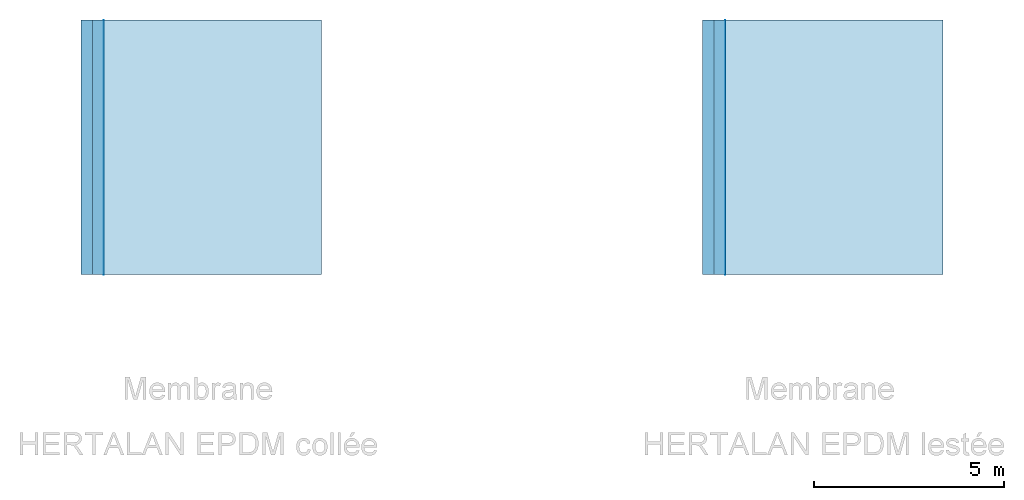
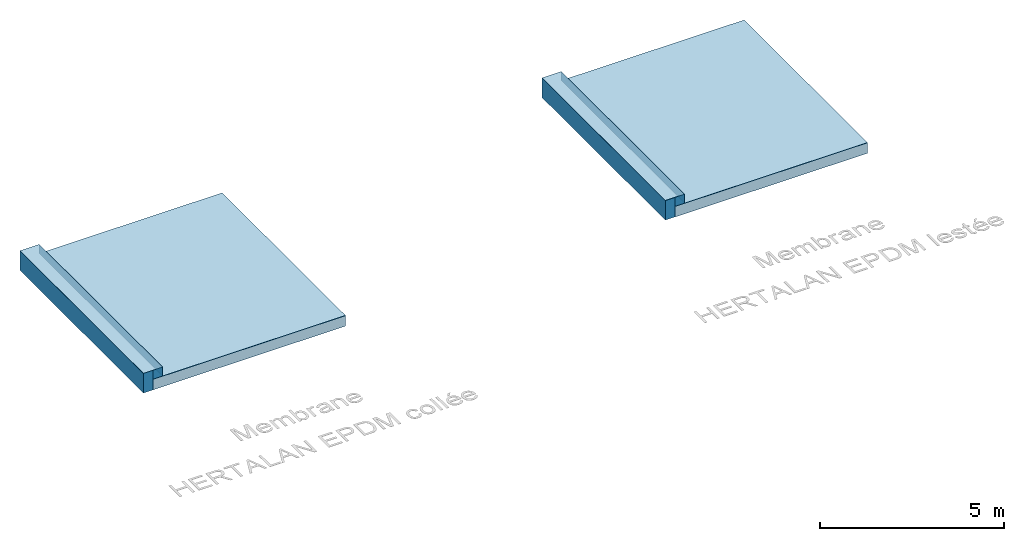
# One storey, incomplete: 6 slabs, 6 walls, 6 elements without a shape of their own.
"""IFC2X3 building model written with IfcOpenShell, lengths in millimetres."""

from ifc_helpers import new_model, entity, si_unit, converted_unit, direction, frame, frame_2d, origin, origin_2d_with_axis, place, context, subcontext, project, spatial, rectangle, extrude, clip, halfspace, material, layer, layer_set, layer_usage, type_object, element, aggregate, save


model = new_model("IFC2X3")

# Units and contexts
model_context = context("Model", 3, precision=0.01, world=origin(), true_north=direction((0.0, 1.0)))
plan_context = context("Plan", 3, precision=0.01, world=origin(), true_north=direction((0.0, 1.0)))
body_context = subcontext(model_context, "Body", "Model", "MODEL_VIEW")
ifc_project = project(units=[si_unit("LENGTHUNIT", "METRE", prefix="MILLI"), si_unit("AREAUNIT", "SQUARE_METRE"), si_unit("VOLUMEUNIT", "CUBIC_METRE"), converted_unit("PLANEANGLEUNIT", "DEGREE", entity("IfcPlaneAngleMeasure", 0.017453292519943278), si_unit("PLANEANGLEUNIT", "RADIAN"), dimensions=[0, 0, 0, 0, 0, 0, 0])], contexts=[model_context, plan_context])

# Site, building, storey
site_placement = place(None, origin())
site = spatial("IfcSite", under=ifc_project, at=site_placement, Name="Default", CompositionType="ELEMENT")
building_placement = place(site_placement, origin())
building = spatial("IfcBuilding", under=site, at=building_placement, CompositionType="ELEMENT")
storey_placement = place(building_placement, origin())
storey = spatial("IfcBuildingStorey", under=building, at=storey_placement, Name="Niveau 1", CompositionType="ELEMENT", Elevation=0.0)

# Roof, slab
ifc_material_1 = material(Name="Membrane Hertalan EPDM collée_Partie courante")
ifc_layer_1 = layer(ifc_material_1, 1.2)
ifc_material_2 = material(Name="Adhésif de contact")
ifc_layer_2 = layer(ifc_material_2, 1.1)
ifc_layer_set_1 = layer_set([ifc_layer_1, ifc_layer_2], Name="Toit de base:Membrane Hertalan EPDM Partie courante collée")
roof_1_placement = place(storey_placement, frame((6837.3553681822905, 5160.491318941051, 135.20000000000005)))
roof_1 = element("IfcRoof", 1, at=roof_1_placement, inside=storey, material=ifc_layer_set_1, Name="Toit de base:Membrane Hertalan EPDM Partie courante collée", ShapeType="NOTDEFINED")
slab_type_1 = type_object("IfcSlabType", Name="Toit de base:Membrane Hertalan EPDM Partie courante collée", PredefinedType="ROOF")
slab_1_placement = place(roof_1_placement, origin())
slab_1 = element("IfcSlab", 2, at=slab_1_placement, type_object=slab_type_1, material=ifc_layer_set_1, Name="Toit de base:Membrane Hertalan EPDM Partie courante collée", PredefinedType="ROOF", context=body_context, shape_type="SweptSolid", body=[
    extrude(rectangle(XDim=6714.46153846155, YDim=5746.950000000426, at=frame_2d((0.0, 0.0), x_axis=(0.0, 1.0))), frame((2873.475000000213, 3357.230769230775, 0.0)), (0.0, 0.0, 1.0), 2.3000000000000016),
])
aggregate(roof_1, [slab_1])

ifc_material_3 = material(Name="Film de protection polyester")
ifc_layer_3 = layer(ifc_material_3, 0.8)
ifc_material_4 = material(Name="Membrane Hertalan EPDM lestée_Partie courante")
ifc_layer_4 = layer(ifc_material_4, 1.5)
ifc_layer_set_2 = layer_set([ifc_layer_3, ifc_layer_4], Name="Toit de base:Membrane Hertalan EPDM Partie courante lestée")
roof_2_placement = place(storey_placement, frame((23232.555368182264, 5160.6254592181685, 135.20000000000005)))
roof_2 = element("IfcRoof", 3, at=roof_2_placement, inside=storey, material=ifc_layer_set_2, Name="Toit de base:Membrane Hertalan EPDM Partie courante lestée", ShapeType="NOTDEFINED")
slab_type_2 = type_object("IfcSlabType", Name="Toit de base:Membrane Hertalan EPDM Partie courante lestée", PredefinedType="ROOF")
slab_2_placement = place(roof_2_placement, origin())
slab_2 = element("IfcSlab", 4, at=slab_2_placement, type_object=slab_type_2, material=ifc_layer_set_2, Name="Toit de base:Membrane Hertalan EPDM Partie courante lestée", PredefinedType="ROOF", context=body_context, shape_type="SweptSolid", body=[
    extrude(rectangle(XDim=6714.46153846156, YDim=5746.95000000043, at=frame_2d((0.0, 4.547473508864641e-13), x_axis=(0.0, 1.0))), frame((2873.475000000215, 3357.2307692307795, 0.0)), (0.0, 0.0, 1.0), 2.3000000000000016),
])
aggregate(roof_2, [slab_2])

ifc_material_5 = material(Name="Membrane Hertalan EPDM collée_Acrotère/Relevé")
ifc_layer_5 = layer(ifc_material_5, 1.5)
ifc_layer_6 = layer(ifc_material_2, 1.1)
ifc_layer_set_3 = layer_set([ifc_layer_5, ifc_layer_6], Name="Toit de base:Membrane Hertalan EPDM_Acrotère")
roof_3_placement = place(storey_placement, frame((6237.330529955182, 5160.587790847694, 435.2)))
roof_3 = element("IfcRoof", 5, at=roof_3_placement, inside=storey, material=ifc_layer_set_3, Name="Toit de base:Membrane Hertalan EPDM_Acrotère", ShapeType="NOTDEFINED")
slab_type_3 = type_object("IfcSlabType", Name="Toit de base:Membrane Hertalan EPDM_Acrotère", PredefinedType="ROOF")
slab_3_placement = place(roof_3_placement, origin())
slab_3 = element("IfcSlab", 6, at=slab_3_placement, type_object=slab_type_3, material=ifc_layer_set_3, Name="Toit de base:Membrane Hertalan EPDM_Acrotère", PredefinedType="ROOF", context=body_context, shape_type="SweptSolid", body=[
    extrude(rectangle(XDim=603.3000000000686, YDim=6714.461538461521, at=frame_2d((0.0, 4.547473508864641e-13), x_axis=(1.0, 0.0))), frame((301.6500000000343, 3357.23076923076, 0.0)), (0.0, 0.0, 1.0), 2.600000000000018),
])
aggregate(roof_3, [slab_3])

roof_4_placement = place(storey_placement, frame((22632.497433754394, 5160.679768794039, 435.2)))
roof_4 = element("IfcRoof", 7, at=roof_4_placement, inside=storey, material=ifc_layer_set_3, Name="Toit de base:Membrane Hertalan EPDM_Acrotère", ShapeType="NOTDEFINED")
slab_4_placement = place(roof_4_placement, origin())
slab_4 = element("IfcSlab", 8, at=slab_4_placement, type_object=slab_type_3, material=ifc_layer_set_3, Name="Toit de base:Membrane Hertalan EPDM_Acrotère", PredefinedType="ROOF", context=body_context, shape_type="SweptSolid", body=[
    extrude(rectangle(XDim=603.3000000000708, YDim=6714.461538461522, at=origin_2d_with_axis()), frame((301.6500000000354, 3357.230769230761, 0.0)), (0.0, 0.0, 1.0), 2.600000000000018),
])
aggregate(roof_4, [slab_4])

ifc_material_6 = material(Name="Isolation")
ifc_layer_7 = layer(ifc_material_6, 100.0)
ifc_material_7 = material(Name="Pare vapeur")
ifc_layer_8 = layer(ifc_material_7, 0.8)
ifc_material_8 = material(Name="Béton de pente")
ifc_layer_9 = layer(ifc_material_8, 50.0)
ifc_material_9 = material(Name="Structure porteuse")
ifc_layer_10 = layer(ifc_material_9, 200.0)
ifc_layer_set_4 = layer_set([ifc_layer_7, ifc_layer_8, ifc_layer_9, ifc_layer_10], Name="Toit de base:Toit-Support autorisé")
roof_5_placement = place(storey_placement, frame((6537.408916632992, 5161.058915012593, -215.60000000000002)))
roof_5 = element("IfcRoof", 9, at=roof_5_placement, inside=storey, material=ifc_layer_set_4, Name="Toit de base:Toit-Support autorisé", ShapeType="NOTDEFINED")
slab_type_4 = type_object("IfcSlabType", Name="Toit de base:Toit-Support autorisé", PredefinedType="ROOF")
slab_5_placement = place(roof_5_placement, origin())
slab_5 = element("IfcSlab", 10, at=slab_5_placement, type_object=slab_type_4, material=ifc_layer_set_4, Name="Toit de base:Toit-Support autorisé", PredefinedType="ROOF", context=body_context, shape_type="SweptSolid", body=[
    extrude(rectangle(XDim=6046.950000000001, YDim=6714.461538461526, at=frame_2d((-1.1368683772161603e-12, 0.0), x_axis=(1.0, 0.0))), frame((3023.4750000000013, 3357.230769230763, 0.0)), (0.0, 0.0, 1.0), 350.80000000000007),
])
aggregate(roof_5, [slab_5])

roof_6_placement = place(storey_placement, frame((22932.568981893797, 5160.81642946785, -215.60000000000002)))
roof_6 = element("IfcRoof", 11, at=roof_6_placement, inside=storey, material=ifc_layer_set_4, Name="Toit de base:Toit-Support autorisé", ShapeType="NOTDEFINED")
slab_6_placement = place(roof_6_placement, origin())
slab_6 = element("IfcSlab", 12, at=slab_6_placement, type_object=slab_type_4, material=ifc_layer_set_4, Name="Toit de base:Toit-Support autorisé", PredefinedType="ROOF", context=body_context, shape_type="SweptSolid", body=[
    extrude(rectangle(XDim=6046.950000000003, YDim=6714.461538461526, at=frame_2d((2.2737367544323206e-12, 0.0), x_axis=(1.0, 0.0))), frame((3023.474999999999, 3357.230769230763, 0.0)), (0.0, 0.0, 1.0), 350.80000000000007),
])
aggregate(roof_6, [slab_6])

# Walls
ifc_layer_11 = layer(ifc_material_6, 100.0)
ifc_material_10 = material(Name="Maçonnerie ascendante")
ifc_layer_12 = layer(ifc_material_10, 200.0)
ifc_layer_set_5 = layer_set([ifc_layer_11, ifc_layer_12], Name="Mur de base:Mur 1")
ifc_layer_usage_1 = layer_usage(ifc_layer_set_5, "AXIS2", "NEGATIVE", 150.00000000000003)
wall_type_1 = type_object("IfcWallType", Name="Mur de base:Mur 1", PredefinedType="STANDARD", material=ifc_layer_set_5)
wall_1_placement = place(storey_placement, frame((6387.355368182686, 11874.952857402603, -215.6), z_axis=(0.0, 0.0, 1.0), x_axis=(0.0, -1.0, 0.0)))
element("IfcWallStandardCase", 13, at=wall_1_placement, inside=storey, type_object=wall_type_1, material=ifc_layer_usage_1, Name="Mur de base:Mur 1", context=body_context, shape_type="SweptSolid", body=[
    extrude(rectangle(XDim=6714.461538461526, YDim=300.0000000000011, at=frame_2d((3357.230769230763, 0.0), x_axis=(-1.0, 0.0))), origin(), (0.0, 0.0, 1.0), 650.8000000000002),
])
ifc_layer_usage_2 = layer_usage(ifc_layer_set_5, "AXIS2", "NEGATIVE", 150.00000000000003)
wall_2_placement = place(storey_placement, frame((6687.355368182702, 11874.952857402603, 135.20000000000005), z_axis=(0.0, 0.0, 1.0), x_axis=(0.0, -1.0, 0.0)))
element("IfcWallStandardCase", 14, at=wall_2_placement, inside=storey, type_object=wall_type_1, material=ifc_layer_usage_2, Name="Mur de base:Mur 1", context=body_context, shape_type="Clipping", body=[
    clip(extrude(rectangle(XDim=6714.461538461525, YDim=300.0000000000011, at=frame_2d((3357.2307692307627, 0.0), x_axis=(-1.0, 0.0))), origin(), (0.0, 0.0, 1.0), 300.0), halfspace(frame((6714.461538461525, -150.0, 0.0), z_axis=(0.0, 0.0, -1.0), x_axis=(0.0, 1.0, 0.0)), False)),
])
ifc_layer_usage_3 = layer_usage(ifc_layer_set_5, "AXIS2", "NEGATIVE", 150.00000000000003)
wall_3_placement = place(storey_placement, frame((22782.555368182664, 11875.08699767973, -215.6), z_axis=(0.0, 0.0, 1.0), x_axis=(0.0, -1.0, 0.0)))
element("IfcWallStandardCase", 15, at=wall_3_placement, inside=storey, type_object=wall_type_1, material=ifc_layer_usage_3, Name="Mur de base:Mur 1", context=body_context, shape_type="SweptSolid", body=[
    extrude(rectangle(XDim=6714.461538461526, YDim=300.00000000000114, at=frame_2d((3357.230769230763, -1.6200374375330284e-12), x_axis=(-1.0, 0.0))), origin(), (0.0, 0.0, 1.0), 650.8000000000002),
])
ifc_layer_usage_4 = layer_usage(ifc_layer_set_5, "AXIS2", "NEGATIVE", 150.00000000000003)
wall_4_placement = place(storey_placement, frame((23082.55536818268, 11875.086997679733, 135.20000000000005), z_axis=(0.0, 0.0, 1.0), x_axis=(0.0, -1.0, 0.0)))
element("IfcWallStandardCase", 16, at=wall_4_placement, inside=storey, type_object=wall_type_1, material=ifc_layer_usage_4, Name="Mur de base:Mur 1", context=body_context, shape_type="Clipping", body=[
    clip(extrude(rectangle(XDim=6714.461538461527, YDim=300.0000000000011, at=frame_2d((3357.2307692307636, 5.400124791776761e-13), x_axis=(-1.0, 0.0))), origin(), (0.0, 0.0, 1.0), 300.0), halfspace(frame((6714.461538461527, -150.0, 0.0), z_axis=(0.0, 0.0, -1.0), x_axis=(0.0, 1.0, 0.0)), False)),
])
ifc_layer_13 = layer(ifc_material_5, 1.5)
ifc_layer_14 = layer(ifc_material_2, 1.1)
ifc_layer_set_6 = layer_set([ifc_layer_13, ifc_layer_14], Name="Mur de base:Membrane Hertalan EPDM Relevé collé")
ifc_layer_usage_5 = layer_usage(ifc_layer_set_6, "AXIS2", "NEGATIVE", 1.3)
wall_type_2 = type_object("IfcWallType", Name="Mur de base:Membrane Hertalan EPDM Relevé collé", PredefinedType="STANDARD", material=ifc_layer_set_6)
wall_5_placement = place(storey_placement, frame((6839.005368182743, 11874.9528574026, 138.50000000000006), z_axis=(0.0, 0.0, 1.0), x_axis=(0.0, -1.0, 0.0)))
element("IfcWallStandardCase", 17, at=wall_5_placement, inside=storey, type_object=wall_type_2, material=ifc_layer_usage_5, Name="Mur de base:Membrane Hertalan EPDM Relevé collé", context=body_context, shape_type="SweptSolid", body=[
    extrude(rectangle(XDim=6714.461538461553, YDim=2.599999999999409, at=frame_2d((3357.2307692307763, 1.887379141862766e-14), x_axis=(-1.0, 0.0))), origin(), (0.0, 0.0, 1.0), 296.7000000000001),
])
ifc_layer_usage_6 = layer_usage(ifc_layer_set_6, "AXIS2", "NEGATIVE", 1.3)
wall_6_placement = place(storey_placement, frame((23234.205368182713, 11875.08699767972, 138.20000000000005), z_axis=(0.0, 0.0, 1.0), x_axis=(0.0, -1.0, 0.0)))
element("IfcWallStandardCase", 18, at=wall_6_placement, inside=storey, type_object=wall_type_2, material=ifc_layer_usage_6, Name="Mur de base:Membrane Hertalan EPDM Relevé collé", context=body_context, shape_type="SweptSolid", body=[
    extrude(rectangle(XDim=6714.461538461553, YDim=2.599999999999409, at=frame_2d((3357.2307692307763, 1.887379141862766e-14), x_axis=(-1.0, 0.0))), origin(), (0.0, 0.0, 1.0), 297.0000000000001),
])

save(model, "model.ifc")
